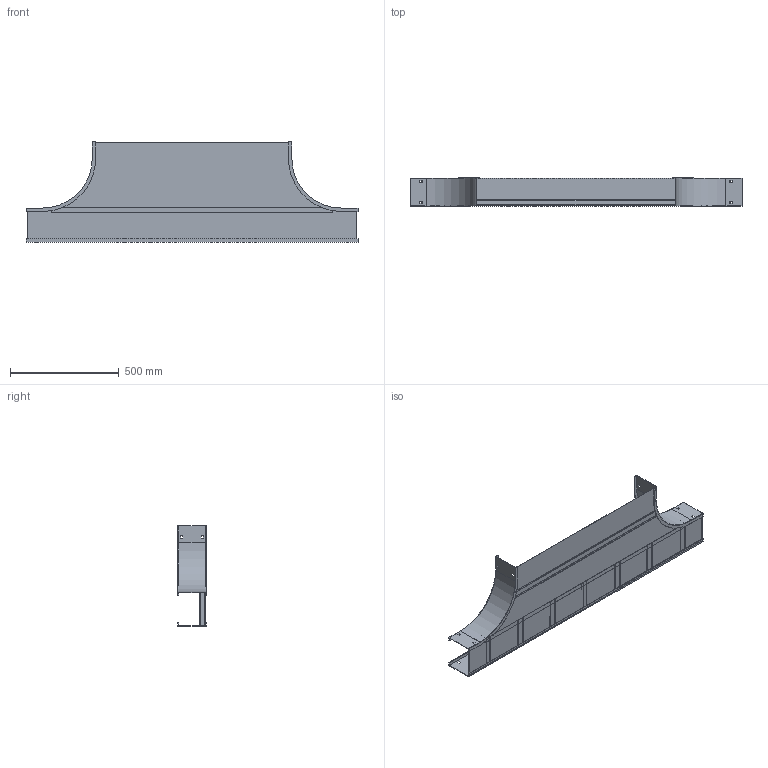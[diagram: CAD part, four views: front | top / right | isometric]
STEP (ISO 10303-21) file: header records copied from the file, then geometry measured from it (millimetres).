
FILE_DESCRIPTION((''),'2;1');
FILE_NAME('AUF50636SET12_ASM','2010-02-02T',('erouzier'),(''),'PRO/ENGINEER BY PARAMETRIC TECHNOLOGY CORPORATION, 2008510','PRO/ENGINEER BY PARAMETRIC TECHNOLOGY CORPORATION, 2008510','');
FILE_SCHEMA(('CONFIG_CONTROL_DESIGN'));
Length unit declared in the file: inch
Products named in the file (13): CDS001320-5-90-9-I; CDS013842-5-60; CDS000495_GEN_AF7; CDS002159L6_AF7; CDS002159L6_AF8; CDS002159L6_AF9; CDS002159L6_AF10; CDS002159L6_AF11; CDS002159L6_AF12; CDS002159L6_AF13; CDS002159L36_AF1; CDS004382-6-12-36; AUF50636SET12_ASM
Assembly tree (13 placements, depth 2):
  AUF50636SET12_ASM
    CDS001320-5-90-9-I  x2
    CDS013842-5-60
    CDS000495_GEN_AF7
    CDS002159L6_AF7
    CDS002159L6_AF8
    CDS002159L6_AF9
    CDS002159L6_AF10
    CDS002159L6_AF11
    CDS002159L6_AF12
    CDS002159L6_AF13
    CDS002159L36_AF1
    CDS004382-6-12-36
Bounding box: 1529.08 x 129.03 x 462.03 mm (x, y, z)
Volume: 1955395.1 mm3; surface area: 2515905.3 mm2
Topology: 13 solids, 13 shells, 356 faces, 990 edges, 660 vertices
Faces by surface type: plane 258, cylinder 98
Entity records: 10625 total; most frequent: CARTESIAN_POINT 1838, ORIENTED_EDGE 1788, DIRECTION 1778, EDGE_CURVE 894, VECTOR 706, LINE 706, VERTEX_POINT 596, AXIS2_PLACEMENT_3D 536
